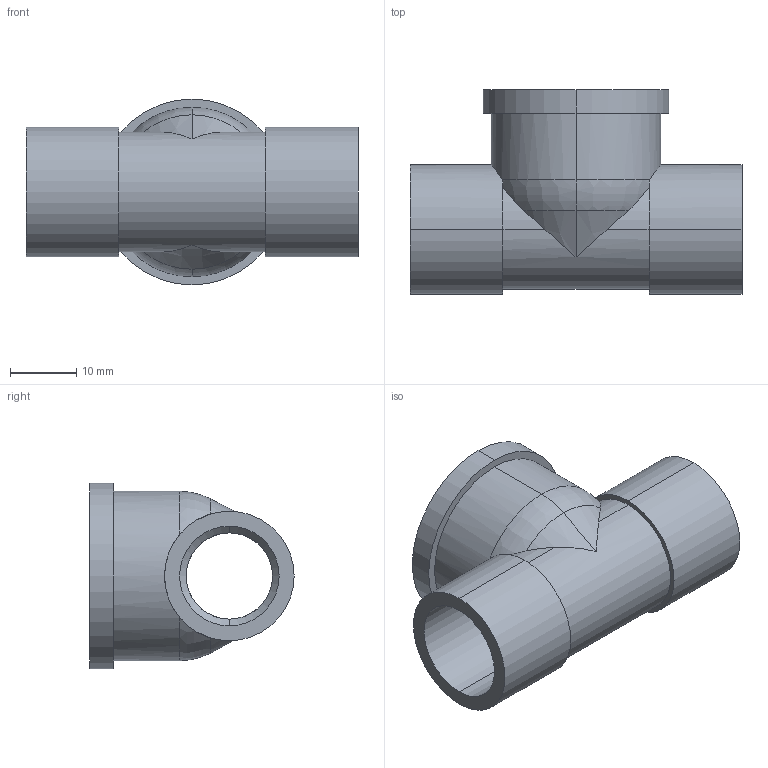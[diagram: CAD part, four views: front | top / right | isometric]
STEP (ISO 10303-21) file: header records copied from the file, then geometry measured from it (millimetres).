
FILE_DESCRIPTION (( 'STEP AP214' ), '1' );
FILE_NAME ('4130 15X2·Ö1X15.STEP', '2014-02-11T01:00:43', ( 'Administrators' ), ( 'JUJUMAO' ), 'SwSTEP 2.0', 'SolidWorks 2008', '' );
FILE_SCHEMA (( 'AUTOMOTIVE_DESIGN' ));
Length unit declared in the file: millimetre
Products named in the file (1): 4130 15X2煦1X15
Bounding box: 50 x 30.75 x 28 mm (x, y, z)
Volume: 8626.8 mm3; surface area: 8268.8 mm2
Topology: 1 solids, 1 shells, 61 faces, 162 edges, 104 vertices
Faces by surface type: cylinder 34, cone 13, plane 8, torus 4, bspline 2
Entity records: 2871 total; most frequent: CARTESIAN_POINT 1432, ORIENTED_EDGE 324, DIRECTION 274, EDGE_CURVE 162, AXIS2_PLACEMENT_3D 115, VERTEX_POINT 104, EDGE_LOOP 66, ADVANCED_FACE 61
